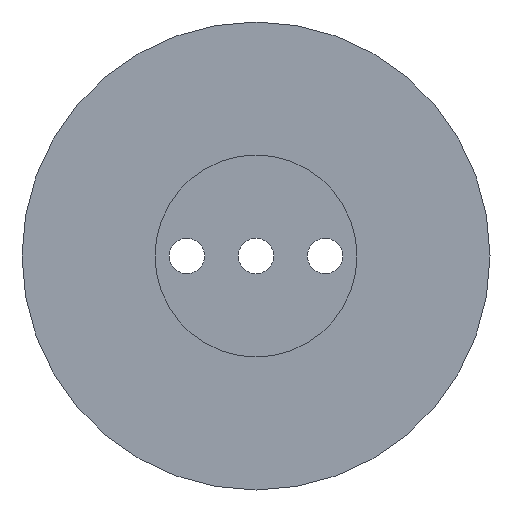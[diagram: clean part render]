
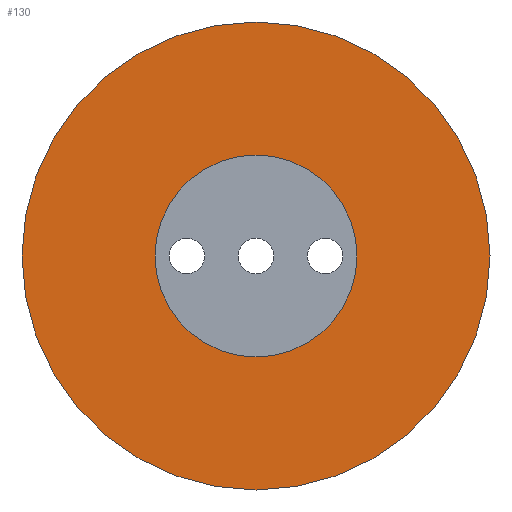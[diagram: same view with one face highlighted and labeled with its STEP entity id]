
A CAD part, front view. The second image highlights one B-rep face of the part: STEP entity #130.
In plain terms, the highlighted planar face has unit normal (0, -1, 0).
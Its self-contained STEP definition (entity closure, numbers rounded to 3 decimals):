
#130=ADVANCED_FACE('',(#618,#620),#622,.F.);
#618=FACE_BOUND('',#619,.T.);
#619=EDGE_LOOP('',(#1010));
#620=FACE_BOUND('',#621,.T.);
#621=EDGE_LOOP('',(#1011));
#622=PLANE('',#623);
#623=AXIS2_PLACEMENT_3D('',#624,#625,#626);
#624=CARTESIAN_POINT('',(56.,-2.5,-81.5));
#625=DIRECTION('',(0.,1.,-0.));
#626=DIRECTION('',(-1.,0.,0.));
#1010=ORIENTED_EDGE('',*,*,#1229,.F.);
#1011=ORIENTED_EDGE('',*,*,#1203,.F.);
#1203=EDGE_CURVE('',#1326,#1326,#1327,.F.);
#1229=EDGE_CURVE('',#1378,#1378,#1379,.T.);
#1326=VERTEX_POINT('',#1551);
#1327=CIRCLE('',#1552,20.);
#1378=VERTEX_POINT('',#1657);
#1379=CIRCLE('',#1658,46.339);
#1551=CARTESIAN_POINT('',(-20.,-2.5,0.));
#1552=AXIS2_PLACEMENT_3D('',#1553,#1554,#1555);
#1553=CARTESIAN_POINT('',(0.,-2.5,0.));
#1554=DIRECTION('',(0.,1.,-0.));
#1555=DIRECTION('',(-1.,0.,0.));
#1657=CARTESIAN_POINT('',(-46.339,-2.5,0.));
#1658=AXIS2_PLACEMENT_3D('',#1659,#1660,#1661);
#1659=CARTESIAN_POINT('',(0.,-2.5,0.));
#1660=DIRECTION('',(0.,1.,-0.));
#1661=DIRECTION('',(-1.,0.,0.));
